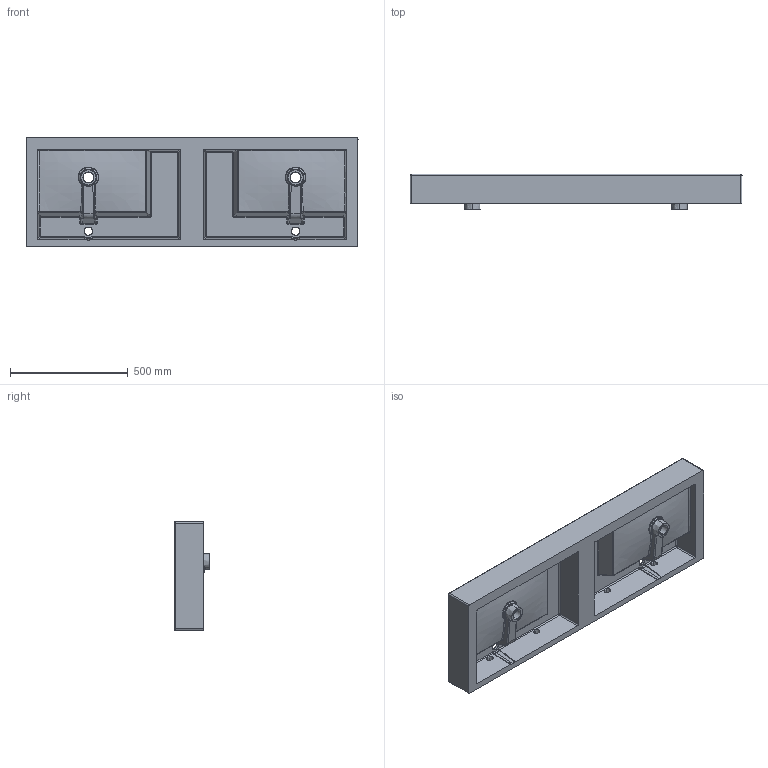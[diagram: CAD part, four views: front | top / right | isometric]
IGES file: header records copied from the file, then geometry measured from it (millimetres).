
Start section: SolidWorks IGES file using analytic representation for surfaces
Global section: file name: \\vmware-host\Shared Folders\Documenti\LAVORO\TECLA\TECLA 2019\TWENTY\TWENTY 140\TWENTY140DV.IGS; native system: SolidWorks 2017; preprocessor: SolidWorks 2017; author: silvia; date: 190411.163259; units: millimetre
Bounding box: 1410 x 150 x 460 mm (x, y, z)
Surface area: 2344219.7 mm2 (no closed solid volume)
Topology: 0 solids, 0 shells, 320 faces, 4091 edges, 4079 vertices
Faces by surface type: bspline 167, revolution 153
